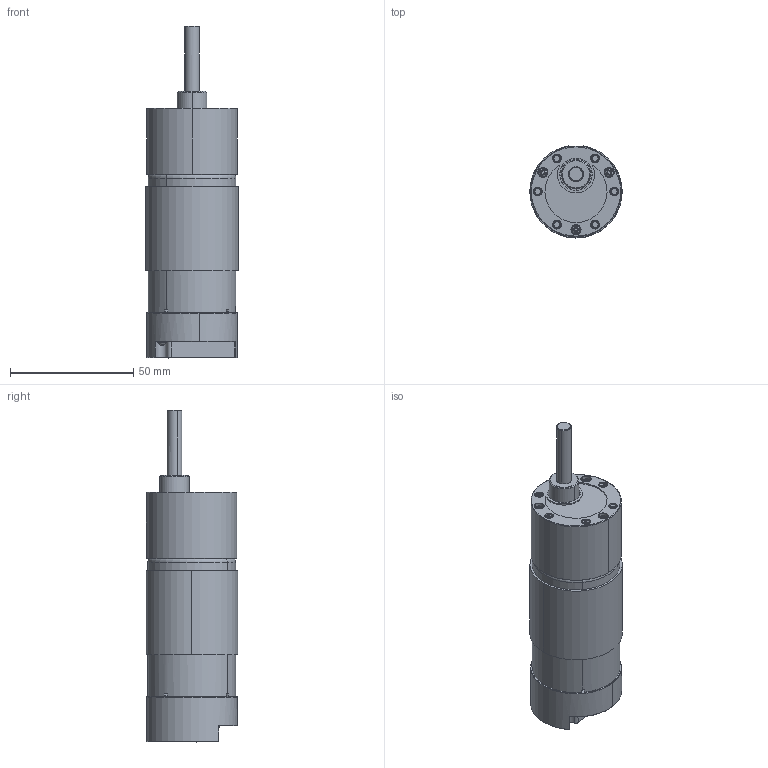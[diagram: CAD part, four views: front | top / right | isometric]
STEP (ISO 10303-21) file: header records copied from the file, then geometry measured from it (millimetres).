
FILE_DESCRIPTION (( 'STEP AP203' ), '1' );
FILE_NAME ('5201-0002-0053 part.STEP', '2018-08-14T04:04:20', ( '' ), ( '' ), 'SwSTEP 2.0', 'SolidWorks 2016', '' );
FILE_SCHEMA (( 'CONFIG_CONTROL_DESIGN' ));
Products named in the file (1): 5201-0002-0053 part
Bounding box: 37.5 x 37.27 x 134.65 mm (x, y, z)
Volume: 34256.3 mm3; surface area: 37105.2 mm2
Topology: 4 solids, 8 shells, 1990 faces, 5326 edges, 3398 vertices
Faces by surface type: cylinder 970, plane 412, bspline 269, torus 141, sphere 112, cone 86
Entity records: 105341 total; most frequent: CARTESIAN_POINT 61775, ORIENTED_EDGE 10638, DIRECTION 7705, EDGE_CURVE 5319, VERTEX_POINT 3397, AXIS2_PLACEMENT_3D 2855, EDGE_LOOP 2058, LINE 1995
